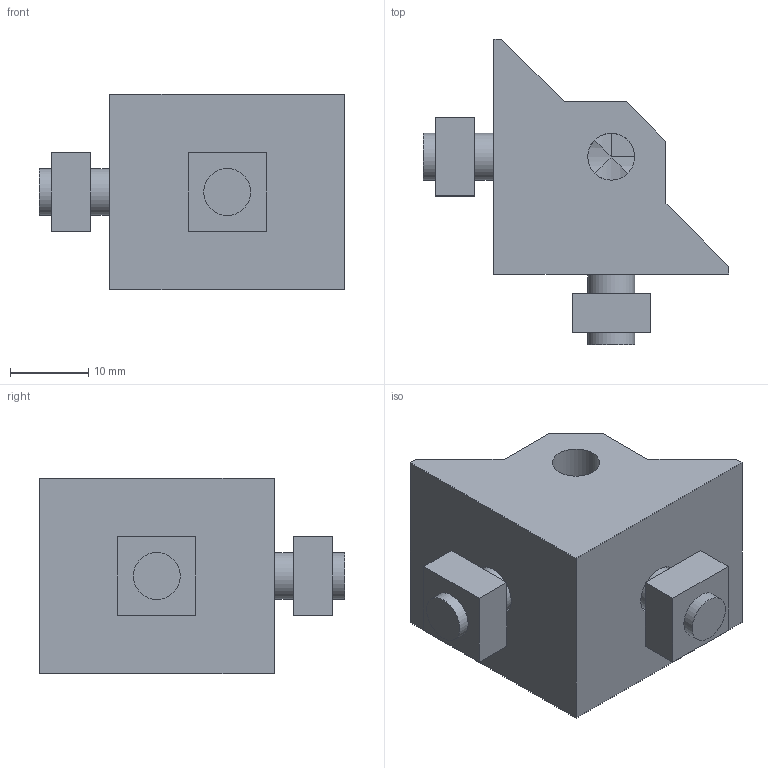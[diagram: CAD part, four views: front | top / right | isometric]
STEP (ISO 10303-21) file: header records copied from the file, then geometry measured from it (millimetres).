
FILE_DESCRIPTION((''),'2;1');
FILE_NAME('C:\Documents and Settings\AMS8\デスクトップ\2013from西村作業用\既存3D\M6ブラケット差分\ABLB-3025-6-T\ABLB-3025-6-T.stp','2013-08-12T09:35:28',('AMS8'),(''),'Autodesk Inventor 2008','Autodesk Inventor 2008','');
FILE_SCHEMA(('AUTOMOTIVE_DESIGN { 1 0 10303 214 1 1 1 1 }'));
Length unit declared in the file: millimetre
Products named in the file (6): ABLB-3025-6-T; ABLB-3025-6-T1; ABLB-3025-6-T2; ABLB-3025-6-T3; ABLB-3025-6-T4; ABLB-3025-6-T5
Assembly tree (5 placements, depth 2):
  ABLB-3025-6-T
    ABLB-3025-6-T1
    ABLB-3025-6-T2
    ABLB-3025-6-T3
    ABLB-3025-6-T4
    ABLB-3025-6-T5
Bounding box: 39 x 39 x 25 mm (x, y, z)
Volume: 13039 mm3; surface area: 6633.8 mm2
Topology: 5 solids, 5 shells, 47 faces, 106 edges, 70 vertices
Faces by surface type: plane 34, cylinder 13
Full cylindrical faces by diameter (mm): 6 x5, 6.6 x2, 10 x2, 11 x2
Entity records: 1466 total; most frequent: CARTESIAN_POINT 267, DIRECTION 229, ORIENTED_EDGE 186, EDGE_CURVE 93, AXIS2_PLACEMENT_3D 83, EDGE_LOOP 69, VERTEX_POINT 68, VECTOR 63
